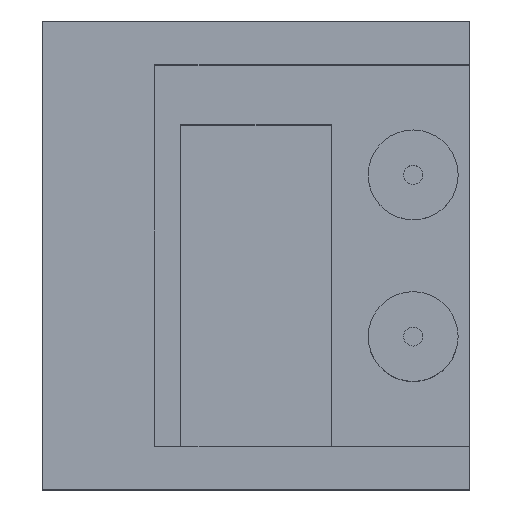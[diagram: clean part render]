
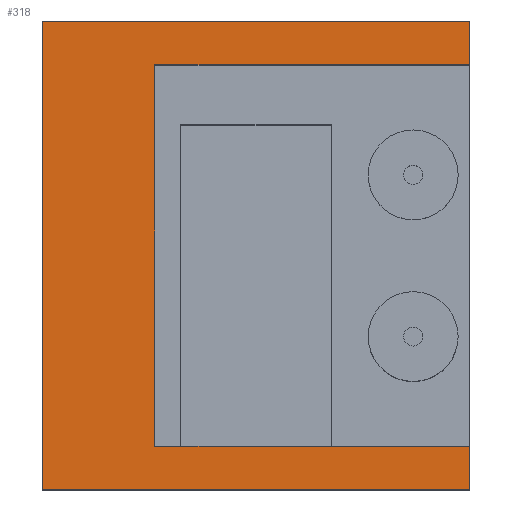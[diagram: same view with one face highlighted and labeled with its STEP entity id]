
A CAD part, top view. The second image highlights one B-rep face of the part: STEP entity #318.
In plain terms, the highlighted planar face has unit normal (0, 0, 1).
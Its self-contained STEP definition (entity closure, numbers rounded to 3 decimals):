
#39 = EDGE_CURVE('',#40,#42,#44,.T.);
#40 = VERTEX_POINT('',#41);
#41 = CARTESIAN_POINT('',(-19.,-20.8,23.));
#42 = VERTEX_POINT('',#43);
#43 = CARTESIAN_POINT('',(-19.,20.8,23.));
#44 = SURFACE_CURVE('',#45,(#49,#61),.PCURVE_S1.);
#45 = LINE('',#46,#47);
#46 = CARTESIAN_POINT('',(-19.,-20.8,23.));
#47 = VECTOR('',#48,1.);
#48 = DIRECTION('',(-0.,1.,0.));
#49 = PCURVE('',#50,#55);
#50 = PLANE('',#51);
#51 = AXIS2_PLACEMENT_3D('',#52,#53,#54);
#52 = CARTESIAN_POINT('',(-19.,-20.8,-23.));
#53 = DIRECTION('',(1.,0.,-0.));
#54 = DIRECTION('',(0.,0.,1.));
#55 = DEFINITIONAL_REPRESENTATION('',(#56),#60);
#56 = LINE('',#57,#58);
#57 = CARTESIAN_POINT('',(46.,0.));
#58 = VECTOR('',#59,1.);
#59 = DIRECTION('',(0.,-1.));
#60 = ( GEOMETRIC_REPRESENTATION_CONTEXT(2) 
PARAMETRIC_REPRESENTATION_CONTEXT() REPRESENTATION_CONTEXT('2D SPACE',''
  ) );
#61 = PCURVE('',#62,#67);
#62 = PLANE('',#63);
#63 = AXIS2_PLACEMENT_3D('',#64,#65,#66);
#64 = CARTESIAN_POINT('',(-19.,-20.8,23.));
#65 = DIRECTION('',(0.,0.,1.));
#66 = DIRECTION('',(1.,0.,-0.));
#67 = DEFINITIONAL_REPRESENTATION('',(#68),#72);
#68 = LINE('',#69,#70);
#69 = CARTESIAN_POINT('',(0.,0.));
#70 = VECTOR('',#71,1.);
#71 = DIRECTION('',(0.,1.));
#72 = ( GEOMETRIC_REPRESENTATION_CONTEXT(2) 
PARAMETRIC_REPRESENTATION_CONTEXT() REPRESENTATION_CONTEXT('2D SPACE',''
  ) );
#90 = PLANE('',#91);
#91 = AXIS2_PLACEMENT_3D('',#92,#93,#94);
#92 = CARTESIAN_POINT('',(-19.,-20.8,-23.));
#93 = DIRECTION('',(-0.,1.,0.));
#94 = DIRECTION('',(0.,0.,1.));
#245 = PLANE('',#246);
#246 = AXIS2_PLACEMENT_3D('',#247,#248,#249);
#247 = CARTESIAN_POINT('',(-19.,20.8,-23.));
#248 = DIRECTION('',(-0.,1.,0.));
#249 = DIRECTION('',(0.,0.,1.));
#318 = ADVANCED_FACE('',(#319),#62,.T.);
#319 = FACE_BOUND('',#320,.T.);
#320 = EDGE_LOOP('',(#321,#344,#345,#368,#396,#422,#448,#474));
#321 = ORIENTED_EDGE('',*,*,#322,.F.);
#322 = EDGE_CURVE('',#42,#323,#325,.T.);
#323 = VERTEX_POINT('',#324);
#324 = CARTESIAN_POINT('',(19.,20.8,23.));
#325 = SURFACE_CURVE('',#326,(#330,#337),.PCURVE_S1.);
#326 = LINE('',#327,#328);
#327 = CARTESIAN_POINT('',(-19.,20.8,23.));
#328 = VECTOR('',#329,1.);
#329 = DIRECTION('',(1.,0.,-0.));
#330 = PCURVE('',#62,#331);
#331 = DEFINITIONAL_REPRESENTATION('',(#332),#336);
#332 = LINE('',#333,#334);
#333 = CARTESIAN_POINT('',(0.,41.6));
#334 = VECTOR('',#335,1.);
#335 = DIRECTION('',(1.,0.));
#336 = ( GEOMETRIC_REPRESENTATION_CONTEXT(2) 
PARAMETRIC_REPRESENTATION_CONTEXT() REPRESENTATION_CONTEXT('2D SPACE',''
  ) );
#337 = PCURVE('',#245,#338);
#338 = DEFINITIONAL_REPRESENTATION('',(#339),#343);
#339 = LINE('',#340,#341);
#340 = CARTESIAN_POINT('',(46.,0.));
#341 = VECTOR('',#342,1.);
#342 = DIRECTION('',(0.,1.));
#343 = ( GEOMETRIC_REPRESENTATION_CONTEXT(2) 
PARAMETRIC_REPRESENTATION_CONTEXT() REPRESENTATION_CONTEXT('2D SPACE',''
  ) );
#344 = ORIENTED_EDGE('',*,*,#39,.F.);
#345 = ORIENTED_EDGE('',*,*,#346,.T.);
#346 = EDGE_CURVE('',#40,#347,#349,.T.);
#347 = VERTEX_POINT('',#348);
#348 = CARTESIAN_POINT('',(19.,-20.8,23.));
#349 = SURFACE_CURVE('',#350,(#354,#361),.PCURVE_S1.);
#350 = LINE('',#351,#352);
#351 = CARTESIAN_POINT('',(-19.,-20.8,23.));
#352 = VECTOR('',#353,1.);
#353 = DIRECTION('',(1.,0.,-0.));
#354 = PCURVE('',#62,#355);
#355 = DEFINITIONAL_REPRESENTATION('',(#356),#360);
#356 = LINE('',#357,#358);
#357 = CARTESIAN_POINT('',(0.,0.));
#358 = VECTOR('',#359,1.);
#359 = DIRECTION('',(1.,0.));
#360 = ( GEOMETRIC_REPRESENTATION_CONTEXT(2) 
PARAMETRIC_REPRESENTATION_CONTEXT() REPRESENTATION_CONTEXT('2D SPACE',''
  ) );
#361 = PCURVE('',#90,#362);
#362 = DEFINITIONAL_REPRESENTATION('',(#363),#367);
#363 = LINE('',#364,#365);
#364 = CARTESIAN_POINT('',(46.,0.));
#365 = VECTOR('',#366,1.);
#366 = DIRECTION('',(0.,1.));
#367 = ( GEOMETRIC_REPRESENTATION_CONTEXT(2) 
PARAMETRIC_REPRESENTATION_CONTEXT() REPRESENTATION_CONTEXT('2D SPACE',''
  ) );
#368 = ORIENTED_EDGE('',*,*,#369,.T.);
#369 = EDGE_CURVE('',#347,#370,#372,.T.);
#370 = VERTEX_POINT('',#371);
#371 = CARTESIAN_POINT('',(19.,-17.,23.));
#372 = SURFACE_CURVE('',#373,(#377,#384),.PCURVE_S1.);
#373 = LINE('',#374,#375);
#374 = CARTESIAN_POINT('',(19.,-20.8,23.));
#375 = VECTOR('',#376,1.);
#376 = DIRECTION('',(-0.,1.,0.));
#377 = PCURVE('',#62,#378);
#378 = DEFINITIONAL_REPRESENTATION('',(#379),#383);
#379 = LINE('',#380,#381);
#380 = CARTESIAN_POINT('',(38.,0.));
#381 = VECTOR('',#382,1.);
#382 = DIRECTION('',(0.,1.));
#383 = ( GEOMETRIC_REPRESENTATION_CONTEXT(2) 
PARAMETRIC_REPRESENTATION_CONTEXT() REPRESENTATION_CONTEXT('2D SPACE',''
  ) );
#384 = PCURVE('',#385,#390);
#385 = PLANE('',#386);
#386 = AXIS2_PLACEMENT_3D('',#387,#388,#389);
#387 = CARTESIAN_POINT('',(19.,-20.8,-23.));
#388 = DIRECTION('',(1.,0.,-0.));
#389 = DIRECTION('',(0.,0.,1.));
#390 = DEFINITIONAL_REPRESENTATION('',(#391),#395);
#391 = LINE('',#392,#393);
#392 = CARTESIAN_POINT('',(46.,0.));
#393 = VECTOR('',#394,1.);
#394 = DIRECTION('',(0.,-1.));
#395 = ( GEOMETRIC_REPRESENTATION_CONTEXT(2) 
PARAMETRIC_REPRESENTATION_CONTEXT() REPRESENTATION_CONTEXT('2D SPACE',''
  ) );
#396 = ORIENTED_EDGE('',*,*,#397,.T.);
#397 = EDGE_CURVE('',#370,#398,#400,.T.);
#398 = VERTEX_POINT('',#399);
#399 = CARTESIAN_POINT('',(-9.,-17.,23.));
#400 = SURFACE_CURVE('',#401,(#405,#411),.PCURVE_S1.);
#401 = LINE('',#402,#403);
#402 = CARTESIAN_POINT('',(-14.,-17.,23.));
#403 = VECTOR('',#404,1.);
#404 = DIRECTION('',(-1.,0.,0.));
#405 = PCURVE('',#62,#406);
#406 = DEFINITIONAL_REPRESENTATION('',(#407),#410);
#407 = B_SPLINE_CURVE_WITH_KNOTS('',1,(#408,#409),.UNSPECIFIED.,.F.,.F.,
  (2,2),(-33.,-5.),.PIECEWISE_BEZIER_KNOTS.);
#408 = CARTESIAN_POINT('',(38.,3.8));
#409 = CARTESIAN_POINT('',(10.,3.8));
#410 = ( GEOMETRIC_REPRESENTATION_CONTEXT(2) 
PARAMETRIC_REPRESENTATION_CONTEXT() REPRESENTATION_CONTEXT('2D SPACE',''
  ) );
#411 = PCURVE('',#412,#417);
#412 = PLANE('',#413);
#413 = AXIS2_PLACEMENT_3D('',#414,#415,#416);
#414 = CARTESIAN_POINT('',(-9.,-17.,5.));
#415 = DIRECTION('',(0.,1.,0.));
#416 = DIRECTION('',(0.,0.,1.));
#417 = DEFINITIONAL_REPRESENTATION('',(#418),#421);
#418 = B_SPLINE_CURVE_WITH_KNOTS('',1,(#419,#420),.UNSPECIFIED.,.F.,.F.,
  (2,2),(-33.,-5.),.PIECEWISE_BEZIER_KNOTS.);
#419 = CARTESIAN_POINT('',(18.,28.));
#420 = CARTESIAN_POINT('',(18.,0.));
#421 = ( GEOMETRIC_REPRESENTATION_CONTEXT(2) 
PARAMETRIC_REPRESENTATION_CONTEXT() REPRESENTATION_CONTEXT('2D SPACE',''
  ) );
#422 = ORIENTED_EDGE('',*,*,#423,.T.);
#423 = EDGE_CURVE('',#398,#424,#426,.T.);
#424 = VERTEX_POINT('',#425);
#425 = CARTESIAN_POINT('',(-9.,17.,23.));
#426 = SURFACE_CURVE('',#427,(#431,#437),.PCURVE_S1.);
#427 = LINE('',#428,#429);
#428 = CARTESIAN_POINT('',(-9.,-18.9,23.));
#429 = VECTOR('',#430,1.);
#430 = DIRECTION('',(0.,1.,0.));
#431 = PCURVE('',#62,#432);
#432 = DEFINITIONAL_REPRESENTATION('',(#433),#436);
#433 = B_SPLINE_CURVE_WITH_KNOTS('',1,(#434,#435),.UNSPECIFIED.,.F.,.F.,
  (2,2),(1.9,35.9),.PIECEWISE_BEZIER_KNOTS.);
#434 = CARTESIAN_POINT('',(10.,3.8));
#435 = CARTESIAN_POINT('',(10.,37.8));
#436 = ( GEOMETRIC_REPRESENTATION_CONTEXT(2) 
PARAMETRIC_REPRESENTATION_CONTEXT() REPRESENTATION_CONTEXT('2D SPACE',''
  ) );
#437 = PCURVE('',#438,#443);
#438 = PLANE('',#439);
#439 = AXIS2_PLACEMENT_3D('',#440,#441,#442);
#440 = CARTESIAN_POINT('',(-9.,-17.,5.));
#441 = DIRECTION('',(1.,0.,0.));
#442 = DIRECTION('',(0.,0.,1.));
#443 = DEFINITIONAL_REPRESENTATION('',(#444),#447);
#444 = B_SPLINE_CURVE_WITH_KNOTS('',1,(#445,#446),.UNSPECIFIED.,.F.,.F.,
  (2,2),(1.9,35.9),.PIECEWISE_BEZIER_KNOTS.);
#445 = CARTESIAN_POINT('',(18.,0.));
#446 = CARTESIAN_POINT('',(18.,-34.));
#447 = ( GEOMETRIC_REPRESENTATION_CONTEXT(2) 
PARAMETRIC_REPRESENTATION_CONTEXT() REPRESENTATION_CONTEXT('2D SPACE',''
  ) );
#448 = ORIENTED_EDGE('',*,*,#449,.F.);
#449 = EDGE_CURVE('',#450,#424,#452,.T.);
#450 = VERTEX_POINT('',#451);
#451 = CARTESIAN_POINT('',(19.,17.,23.));
#452 = SURFACE_CURVE('',#453,(#457,#463),.PCURVE_S1.);
#453 = LINE('',#454,#455);
#454 = CARTESIAN_POINT('',(-14.,17.,23.));
#455 = VECTOR('',#456,1.);
#456 = DIRECTION('',(-1.,0.,0.));
#457 = PCURVE('',#62,#458);
#458 = DEFINITIONAL_REPRESENTATION('',(#459),#462);
#459 = B_SPLINE_CURVE_WITH_KNOTS('',1,(#460,#461),.UNSPECIFIED.,.F.,.F.,
  (2,2),(-33.,-5.),.PIECEWISE_BEZIER_KNOTS.);
#460 = CARTESIAN_POINT('',(38.,37.8));
#461 = CARTESIAN_POINT('',(10.,37.8));
#462 = ( GEOMETRIC_REPRESENTATION_CONTEXT(2) 
PARAMETRIC_REPRESENTATION_CONTEXT() REPRESENTATION_CONTEXT('2D SPACE',''
  ) );
#463 = PCURVE('',#464,#469);
#464 = PLANE('',#465);
#465 = AXIS2_PLACEMENT_3D('',#466,#467,#468);
#466 = CARTESIAN_POINT('',(-9.,17.,5.));
#467 = DIRECTION('',(0.,1.,0.));
#468 = DIRECTION('',(0.,0.,1.));
#469 = DEFINITIONAL_REPRESENTATION('',(#470),#473);
#470 = B_SPLINE_CURVE_WITH_KNOTS('',1,(#471,#472),.UNSPECIFIED.,.F.,.F.,
  (2,2),(-33.,-5.),.PIECEWISE_BEZIER_KNOTS.);
#471 = CARTESIAN_POINT('',(18.,28.));
#472 = CARTESIAN_POINT('',(18.,0.));
#473 = ( GEOMETRIC_REPRESENTATION_CONTEXT(2) 
PARAMETRIC_REPRESENTATION_CONTEXT() REPRESENTATION_CONTEXT('2D SPACE',''
  ) );
#474 = ORIENTED_EDGE('',*,*,#475,.T.);
#475 = EDGE_CURVE('',#450,#323,#476,.T.);
#476 = SURFACE_CURVE('',#477,(#481,#488),.PCURVE_S1.);
#477 = LINE('',#478,#479);
#478 = CARTESIAN_POINT('',(19.,-20.8,23.));
#479 = VECTOR('',#480,1.);
#480 = DIRECTION('',(-0.,1.,0.));
#481 = PCURVE('',#62,#482);
#482 = DEFINITIONAL_REPRESENTATION('',(#483),#487);
#483 = LINE('',#484,#485);
#484 = CARTESIAN_POINT('',(38.,0.));
#485 = VECTOR('',#486,1.);
#486 = DIRECTION('',(0.,1.));
#487 = ( GEOMETRIC_REPRESENTATION_CONTEXT(2) 
PARAMETRIC_REPRESENTATION_CONTEXT() REPRESENTATION_CONTEXT('2D SPACE',''
  ) );
#488 = PCURVE('',#385,#489);
#489 = DEFINITIONAL_REPRESENTATION('',(#490),#494);
#490 = LINE('',#491,#492);
#491 = CARTESIAN_POINT('',(46.,0.));
#492 = VECTOR('',#493,1.);
#493 = DIRECTION('',(0.,-1.));
#494 = ( GEOMETRIC_REPRESENTATION_CONTEXT(2) 
PARAMETRIC_REPRESENTATION_CONTEXT() REPRESENTATION_CONTEXT('2D SPACE',''
  ) );
